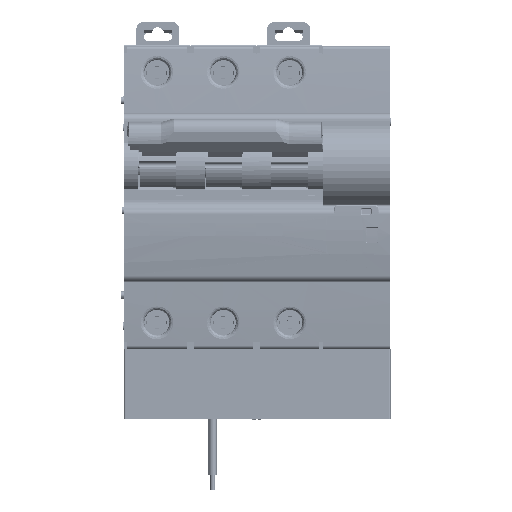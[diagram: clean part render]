
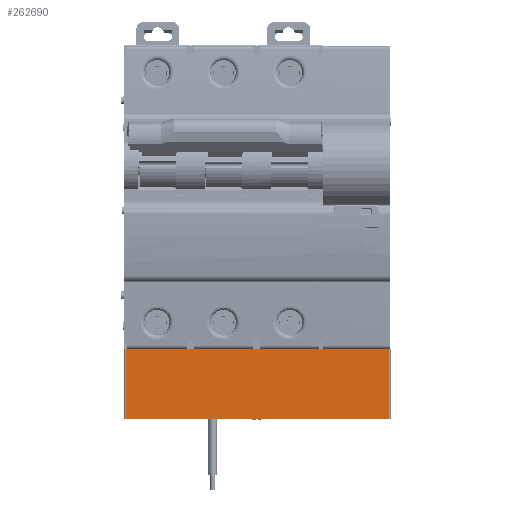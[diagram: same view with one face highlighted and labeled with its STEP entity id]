
A CAD part, top view. The second image highlights one B-rep face of the part: STEP entity #262690.
In plain terms, the highlighted planar face has unit normal (0, 0, 1).
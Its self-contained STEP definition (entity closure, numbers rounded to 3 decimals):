
#14639=DIRECTION('',(1.,0.,0.));
#14640=VECTOR('',#14639,70.1);
#14641=CARTESIAN_POINT('',(0.55,0.,43.3));
#14642=LINE('',#14641,#14640);
#20195=DIRECTION('',(-1.,0.,0.));
#20196=VECTOR('',#20195,70.1);
#20197=CARTESIAN_POINT('',(70.65,-18.5,43.3));
#20198=LINE('',#20197,#20196);
#22536=DIRECTION('',(0.,1.,0.));
#22537=VECTOR('',#22536,18.5);
#22538=CARTESIAN_POINT('',(70.65,-18.5,43.3));
#22539=LINE('',#22538,#22537);
#22540=DIRECTION('',(0.,-1.,0.));
#22541=VECTOR('',#22540,18.5);
#22542=CARTESIAN_POINT('',(0.55,0.,43.3));
#22543=LINE('',#22542,#22541);
#231325=CARTESIAN_POINT('',(0.55,0.,43.3));
#231327=VERTEX_POINT('',#231325);
#231328=CARTESIAN_POINT('',(70.65,0.,43.3));
#231330=VERTEX_POINT('',#231328);
#233079=CARTESIAN_POINT('',(70.65,-18.5,43.3));
#233080=CARTESIAN_POINT('',(0.55,-18.5,43.3));
#233081=VERTEX_POINT('',#233079);
#233082=VERTEX_POINT('',#233080);
#262678=CARTESIAN_POINT('',(0.05,0.,43.3));
#262679=DIRECTION('',(0.,0.,1.));
#262680=DIRECTION('',(1.,0.,0.));
#262681=AXIS2_PLACEMENT_3D('',#262678,#262679,#262680);
#262682=PLANE('',#262681);
#262683=ORIENTED_EDGE('',*,*,#262672,.F.);
#262684=ORIENTED_EDGE('',*,*,#259125,.T.);
#262686=ORIENTED_EDGE('',*,*,#262685,.F.);
#262687=ORIENTED_EDGE('',*,*,#251920,.T.);
#262688=EDGE_LOOP('',(#262683,#262684,#262686,#262687));
#262689=FACE_OUTER_BOUND('',#262688,.F.);
#262690=ADVANCED_FACE('',(#262689),#262682,.T.);
#251920=EDGE_CURVE('',#231327,#231330,#14642,.T.);
#259125=EDGE_CURVE('',#233081,#233082,#20198,.T.);
#262672=EDGE_CURVE('',#233081,#231330,#22539,.T.);
#262685=EDGE_CURVE('',#231327,#233082,#22543,.T.);
